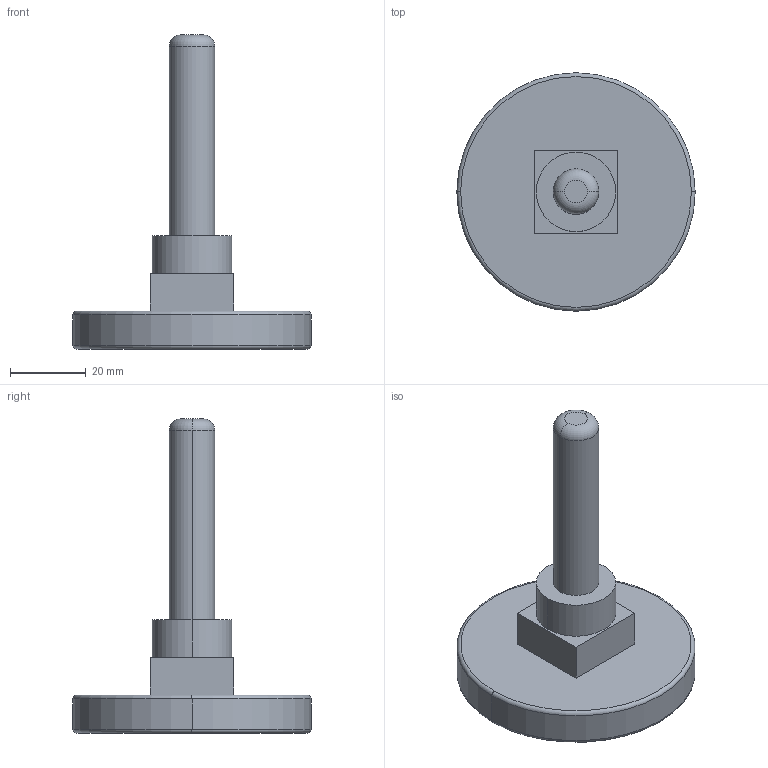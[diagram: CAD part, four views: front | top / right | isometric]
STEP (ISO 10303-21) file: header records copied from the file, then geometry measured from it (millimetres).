
FILE_DESCRIPTION (( 'STEP AP214' ), '1' );
FILE_NAME ('Termometr_bimetaliczny_x_0_3D_AFRISO.STEP', '2022-12-16T13:36:30', ( '' ), ( '' ), 'SwSTEP 2.0', 'SolidWorks 2022', '' );
FILE_SCHEMA (( 'AUTOMOTIVE_DESIGN' ));
Length unit declared in the file: millimetre
Products named in the file (1): Termometr_bimetaliczny_x_0_3D_AFRISO
Bounding box: 63 x 63 x 83 mm (x, y, z)
Volume: 45321.2 mm3; surface area: 11528.2 mm2
Topology: 1 solids, 1 shells, 21 faces, 42 edges, 26 vertices
Faces by surface type: plane 9, torus 6, cylinder 6
Entity records: 586 total; most frequent: DIRECTION 110, CARTESIAN_POINT 90, ORIENTED_EDGE 84, AXIS2_PLACEMENT_3D 46, EDGE_CURVE 42, VERTEX_POINT 26, CIRCLE 24, EDGE_LOOP 24
